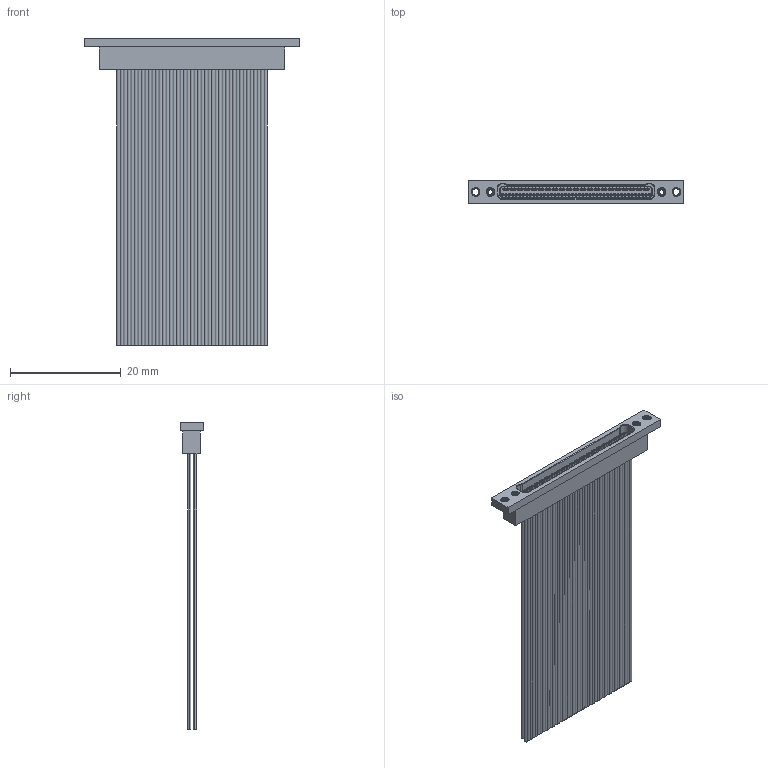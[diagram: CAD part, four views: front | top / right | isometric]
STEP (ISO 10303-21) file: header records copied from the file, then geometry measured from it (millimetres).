
FILE_DESCRIPTION (( 'STEP AP214' ), '1' );
FILE_NAME ('A29600-085 REV A.STEP', '2021-02-26T17:53:22', ( '' ), ( '' ), 'SwSTEP 2.0', 'SolidWorks 2019', '' );
FILE_SCHEMA (( 'AUTOMOTIVE_DESIGN' ));
Length unit declared in the file: inch
Products named in the file (1): A29600-085 REV A
Bounding box: 38.99 x 4.2 x 55.66 mm (x, y, z)
Volume: 1728 mm3; surface area: 10130.9 mm2
Topology: 1 solids, 89 shells, 2096 faces, 4417 edges, 2770 vertices
Faces by surface type: cylinder 1096, plane 582, torus 340, bspline 60, cone 18
Entity records: 90605 total; most frequent: CARTESIAN_POINT 16458, DIRECTION 10873, ORIENTED_EDGE 8834, AXIS2_PLACEMENT_3D 4669, EDGE_CURVE 4417, VERTEX_POINT 2770, CIRCLE 2632, EDGE_LOOP 2545
